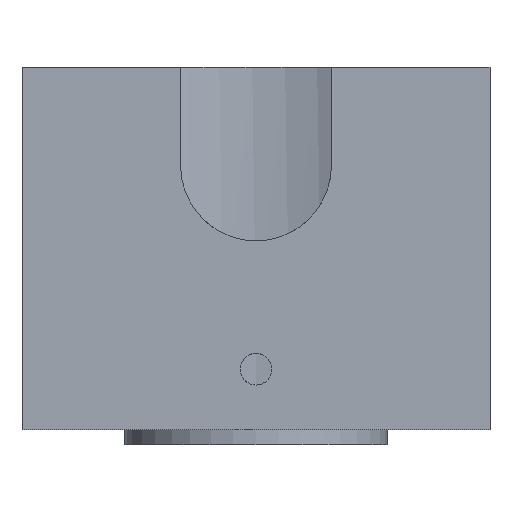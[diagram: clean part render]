
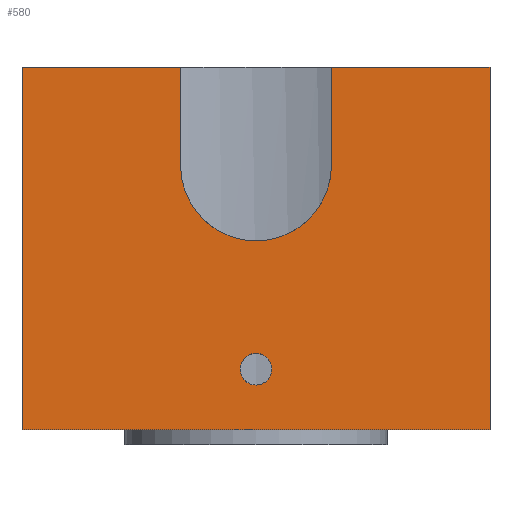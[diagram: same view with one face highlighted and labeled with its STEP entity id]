
A CAD part, front view. The second image highlights one B-rep face of the part: STEP entity #580.
In plain terms, the highlighted planar face has unit normal (0, -1, 0).
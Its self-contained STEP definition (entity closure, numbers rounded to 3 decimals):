
#30=FACE_BOUND('',#114,.T.);
#52=PLANE('',#643);
#77=FACE_OUTER_BOUND('',#113,.T.);
#113=EDGE_LOOP('',(#445,#446,#447,#448,#449,#450,#451,#452));
#114=EDGE_LOOP('',(#453));
#153=LINE('',#902,#196);
#157=LINE('',#909,#200);
#160=LINE('',#999,#203);
#161=LINE('',#1001,#204);
#162=LINE('',#1003,#205);
#163=LINE('',#1005,#206);
#164=LINE('',#1006,#207);
#196=VECTOR('',#732,10.);
#200=VECTOR('',#738,10.);
#203=VECTOR('',#751,10.);
#204=VECTOR('',#752,10.);
#205=VECTOR('',#753,10.);
#206=VECTOR('',#754,10.);
#207=VECTOR('',#755,10.);
#243=CIRCLE('',#636,10.);
#247=CIRCLE('',#644,2.1);
#270=VERTEX_POINT('',#893);
#271=VERTEX_POINT('',#895);
#273=VERTEX_POINT('',#901);
#275=VERTEX_POINT('',#907);
#283=VERTEX_POINT('',#998);
#284=VERTEX_POINT('',#1000);
#285=VERTEX_POINT('',#1002);
#286=VERTEX_POINT('',#1004);
#287=VERTEX_POINT('',#1007);
#329=EDGE_CURVE('',#271,#270,#243,.T.);
#332=EDGE_CURVE('',#273,#271,#153,.T.);
#336=EDGE_CURVE('',#270,#275,#157,.T.);
#347=EDGE_CURVE('',#283,#275,#160,.T.);
#348=EDGE_CURVE('',#284,#283,#161,.T.);
#349=EDGE_CURVE('',#284,#285,#162,.T.);
#350=EDGE_CURVE('',#285,#286,#163,.T.);
#351=EDGE_CURVE('',#273,#286,#164,.T.);
#352=EDGE_CURVE('',#287,#287,#247,.T.);
#445=ORIENTED_EDGE('',*,*,#332,.T.);
#446=ORIENTED_EDGE('',*,*,#329,.T.);
#447=ORIENTED_EDGE('',*,*,#336,.T.);
#448=ORIENTED_EDGE('',*,*,#347,.F.);
#449=ORIENTED_EDGE('',*,*,#348,.F.);
#450=ORIENTED_EDGE('',*,*,#349,.T.);
#451=ORIENTED_EDGE('',*,*,#350,.T.);
#452=ORIENTED_EDGE('',*,*,#351,.F.);
#453=ORIENTED_EDGE('',*,*,#352,.T.);
#580=ADVANCED_FACE('',(#77,#30),#52,.T.);
#636=AXIS2_PLACEMENT_3D('',#896,#726,#727);
#643=AXIS2_PLACEMENT_3D('',#997,#749,#750);
#644=AXIS2_PLACEMENT_3D('',#1008,#756,#757);
#726=DIRECTION('center_axis',(0.,1.,0.));
#727=DIRECTION('ref_axis',(1.,0.,0.));
#732=DIRECTION('',(0.,0.,-1.));
#738=DIRECTION('',(0.,0.,1.));
#749=DIRECTION('center_axis',(0.,-1.,0.));
#750=DIRECTION('ref_axis',(1.,0.,0.));
#751=DIRECTION('',(1.,0.,0.));
#752=DIRECTION('',(0.,0.,1.));
#753=DIRECTION('',(1.,0.,0.));
#754=DIRECTION('',(0.,0.,1.));
#755=DIRECTION('',(1.,0.,0.));
#756=DIRECTION('center_axis',(0.,1.,0.));
#757=DIRECTION('ref_axis',(1.,0.,0.));
#893=CARTESIAN_POINT('',(21.,0.,37.));
#895=CARTESIAN_POINT('',(41.,0.,37.));
#896=CARTESIAN_POINT('Origin',(31.,0.,37.));
#901=CARTESIAN_POINT('',(41.,0.,50.));
#902=CARTESIAN_POINT('',(41.,0.,25.));
#907=CARTESIAN_POINT('',(21.,0.,50.));
#909=CARTESIAN_POINT('',(21.,0.,18.5));
#997=CARTESIAN_POINT('Origin',(0.,0.,
0.));
#998=CARTESIAN_POINT('',(0.,0.,50.));
#999=CARTESIAN_POINT('',(0.,0.,50.));
#1000=CARTESIAN_POINT('',(0.,0.,2.));
#1001=CARTESIAN_POINT('',(0.,0.,0.));
#1002=CARTESIAN_POINT('',(62.,0.,2.));
#1003=CARTESIAN_POINT('',(15.5,0.,2.));
#1004=CARTESIAN_POINT('',(62.,0.,50.));
#1005=CARTESIAN_POINT('',(62.,0.,0.));
#1006=CARTESIAN_POINT('',(0.,0.,50.));
#1007=CARTESIAN_POINT('',(28.9,0.,10.));
#1008=CARTESIAN_POINT('Origin',(31.,0.,10.));
